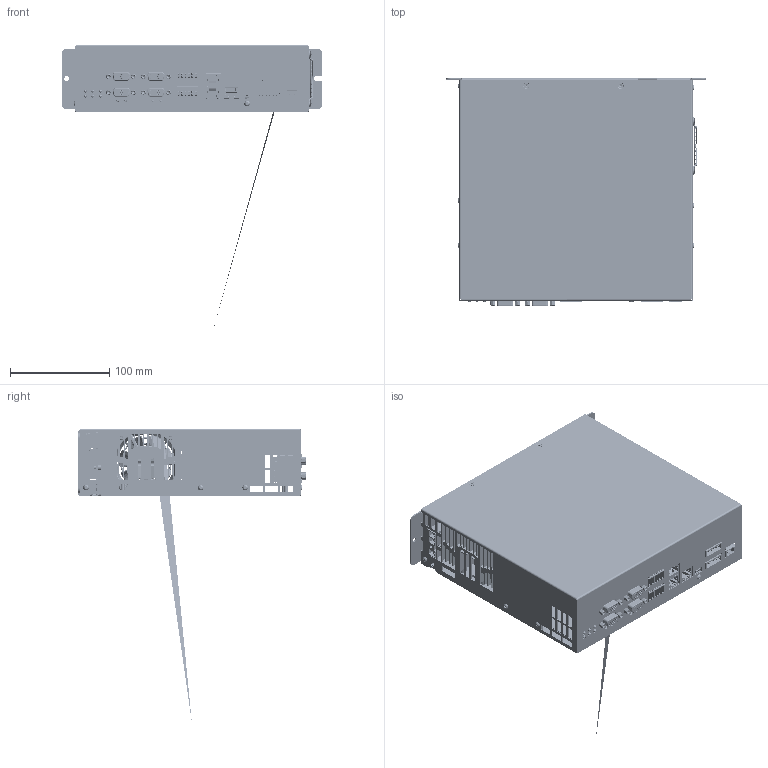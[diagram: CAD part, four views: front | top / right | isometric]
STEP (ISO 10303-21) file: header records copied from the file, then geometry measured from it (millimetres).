
FILE_DESCRIPTION (( 'STEP AP214' ), '1' );
FILE_NAME ('TSD350_Rev1.STEP', '2021-01-13T11:06:52', ( '' ), ( '' ), 'SwSTEP 2.0', 'SolidWorks 2020', '' );
FILE_SCHEMA (( 'AUTOMOTIVE_DESIGN' ));
Length unit declared in the file: millimetre
Products named in the file (20): TSD350-BodenBlech; Abstandsbolzen-I-A-UNC4-40x4.8-6.9; User_Library-fan_60x60x25_mm_Carcasa_Ventilador_60x60; User_Library-fan_60x60x25_mm_Alaves_Ventilador_60x60; TSD350-Heatsink; FanGuard-Sunon-FG-06; Distanzhülse-D8x5-Ettinger-05.83.805; M4-WeldingNut; Screw-Torx-Linse-M3x12_M3 - L12; TPU3D1_Rev1B; Fan60x25; TSD350_Rev1; Screw-Torx-Senk-M3x6; Screw-Torx-Linse-M3x4_M3 - L4; TSD350-PCBA; TCU1_Rev3A; Screw-Fan-Philips-D5x10; TSD350-DeckelBlech; Mech-Standoff-PEM-BSO4-M3-12
Assembly tree (51 placements, depth 3):
  TSD350_Rev1
    TSD350-BodenBlech
      TSD350-BodenBlech
      M4-WeldingNut
      Mech-Standoff-PEM-BSO4-M3-12  x9
    TSD350-PCBA
      TCU1_Rev3A
      TPU3D1_Rev1B
    TSD350-DeckelBlech
    TSD350-Heatsink  x2
    Fan60x25
      User_Library-fan_60x60x25_mm_Carcasa_Ventilador_60x60
      User_Library-fan_60x60x25_mm_Alaves_Ventilador_60x60
    FanGuard-Sunon-FG-06
    Screw-Torx-Linse-M3x4_M3 - L4  x7
    Screw-Torx-Senk-M3x6  x2
    Abstandsbolzen-I-A-UNC4-40x4.8-6.9  x8
    Screw-Fan-Philips-D5x10  x4
    Distanzhülse-D8x5-Ettinger-05.83.805  x4
    Screw-Torx-Linse-M3x12_M3 - L12  x4
Bounding box: 262.3 x 229.7 x 296.75 mm (x, y, z)
Volume: 484943.5 mm3; surface area: 812651.1 mm2
Topology: 46 solids, 150 shells, 11196 faces, 30220 edges, 19565 vertices
Faces by surface type: plane 7217, cylinder 3038, cone 513, bspline 212, torus 186, sphere 30
Entity records: 388370 total; most frequent: CARTESIAN_POINT 140407, ORIENTED_EDGE 53806, DIRECTION 29293, EDGE_CURVE 27425, B_SPLINE_CURVE_WITH_KNOTS 20500, VERTEX_POINT 17836, AXIS2_PLACEMENT_3D 12576, EDGE_LOOP 11201
